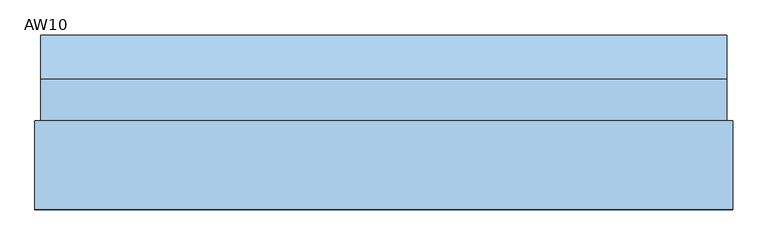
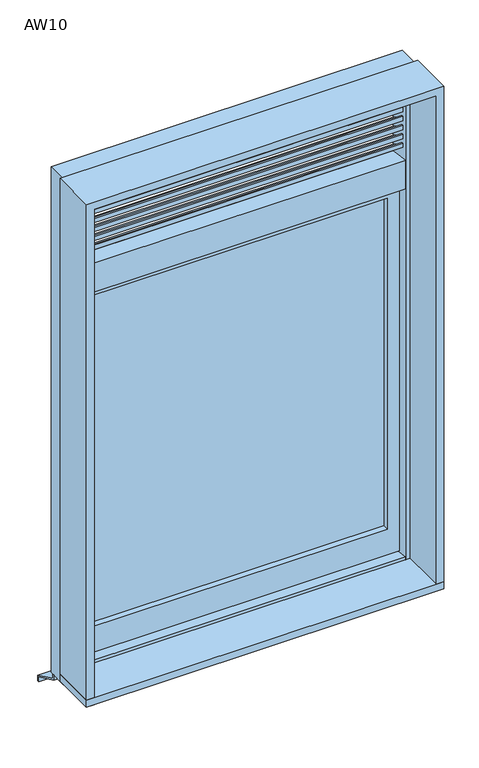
"""IFC4 building model written with IfcOpenShell, lengths in millimetres: window geometry, 営_段窓_縦辷出し/ガラリ : AW10."""

from ifc_helpers import new_model, si_unit, frame, origin, place, context, project, spatial, polyline, outline, extrude, source, transform, mapped, element, save


def aw10_97079301(model_context):
    return source(origin(), model_context, "Body", "SweptSolid", [
        extrude(outline(polyline([(20.0, 2721.9993654), (20.0, 2703.75), (15.0, 2703.75), (15.0, 2718.75), (-30.0, 2738.75), (-30.0, 2753.75), (-25.0, 2753.75), (-25.0, 2741.9993654), (20.0, 2721.9993654)])), frame((-550.0, 0.0, 0.0), z_axis=(1.0, 0.0, 0.0), x_axis=(0.0, 1.0, 0.0)), (0.0, 0.0, 1.0), 1100.0),
        extrude(outline(polyline([(20.0, 2690.7493654), (20.0, 2672.5), (15.0, 2672.5), (15.0, 2687.5), (-30.0, 2707.5), (-30.0, 2722.5), (-25.0, 2722.5), (-25.0, 2710.7493654), (20.0, 2690.7493654)])), frame((-550.0, 0.0, 0.0), z_axis=(1.0, 0.0, 0.0), x_axis=(0.0, 1.0, 0.0)), (0.0, 0.0, 1.0), 1100.0),
        extrude(outline(polyline([(20.0, 2659.4993654), (20.0, 2641.25), (15.0, 2641.25), (15.0, 2656.25), (-30.0, 2676.25), (-30.0, 2691.25), (-25.0, 2691.25), (-25.0, 2679.4993654), (20.0, 2659.4993654)])), frame((-550.0, 0.0, 0.0), z_axis=(1.0, 0.0, 0.0), x_axis=(0.0, 1.0, 0.0)), (0.0, 0.0, 1.0), 1100.0),
        extrude(outline(polyline([(20.0, 2628.2493654), (20.0, 2610.0), (15.0, 2610.0), (15.0, 2625.0), (-30.0, 2645.0), (-30.0, 2660.0), (-25.0, 2660.0), (-25.0, 2648.2493654), (20.0, 2628.2493654)])), frame((-550.0, 0.0, 0.0), z_axis=(1.0, 0.0, 0.0), x_axis=(0.0, 1.0, 0.0)), (0.0, 0.0, 1.0), 1100.0),
        extrude(outline(polyline([(20.0, 2596.9993654), (20.0, 2578.75), (15.0, 2578.75), (15.0, 2593.75), (-30.0, 2613.75), (-30.0, 2628.75), (-25.0, 2628.75), (-25.0, 2616.9993654), (20.0, 2596.9993654)])), frame((-550.0, 0.0, 0.0), z_axis=(1.0, 0.0, 0.0), x_axis=(0.0, 1.0, 0.0)), (0.0, 0.0, 1.0), 1100.0),
        extrude(outline(polyline([(20.0, 2565.7493654), (20.0, 2547.5), (15.0, 2547.5), (15.0, 2562.5), (-30.0, 2582.5), (-30.0, 2597.5), (-25.0, 2597.5), (-25.0, 2585.7493654), (20.0, 2565.7493654)])), frame((-550.0, 0.0, 0.0), z_axis=(1.0, 0.0, 0.0), x_axis=(0.0, 1.0, 0.0)), (0.0, 0.0, 1.0), 1100.0),
        extrude(outline(polyline([(20.0, 2534.4993654), (20.0, 2516.25), (15.0, 2516.25), (15.0, 2531.25), (-30.0, 2551.25), (-30.0, 2566.25), (-25.0, 2566.25), (-25.0, 2554.4993654), (20.0, 2534.4993654)])), frame((-550.0, 0.0, 0.0), z_axis=(1.0, 0.0, 0.0), x_axis=(0.0, 1.0, 0.0)), (0.0, 0.0, 1.0), 1100.0),
        extrude(outline(polyline([(20.0, 2753.2493654), (20.0, 2735.0), (15.0, 2735.0), (15.0, 2750.0), (-30.0, 2770.0), (-30.0, 2785.0), (-25.0, 2785.0), (-25.0, 2773.2493654), (20.0, 2753.2493654)])), frame((-550.0, 0.0, 0.0), z_axis=(1.0, 0.0, 0.0), x_axis=(0.0, 1.0, 0.0)), (0.0, 0.0, 1.0), 1100.0),
        extrude(outline(polyline([(20.0, 2503.2493654), (20.0, 2485.0), (15.0, 2485.0), (15.0, 2500.0), (-30.0, 2520.0), (-30.0, 2535.0), (-25.0, 2535.0), (-25.0, 2523.2493654), (20.0, 2503.2493654)])), frame((-550.0, 0.0, 0.0), z_axis=(1.0, 0.0, 0.0), x_axis=(0.0, 1.0, 0.0)), (0.0, 0.0, 1.0), 1100.0),
        extrude(outline(polyline([(510.0, 10.0), (-510.0, 10.0), (-510.0, 15.0), (510.0, 15.0), (510.0, 10.0)])), frame((0.0, 0.0, 1190.0), z_axis=(0.0, 0.0, 1.0), x_axis=(1.0, 0.0, 0.0)), (0.0, 0.0, 1.0), 1155.0),
        extrude(outline(polyline([(2385.0, 550.0), (2385.0, -550.0), (1100.0, -550.0), (1100.0, 550.0), (2385.0, 550.0)]), holes=[polyline([(2345.0, 510.0), (1190.0, 510.0), (1190.0, -510.0), (2345.0, -510.0), (2345.0, 510.0)])]), frame((0.0, -10.0, 0.0), z_axis=(0.0, 1.0, 0.0), x_axis=(0.0, 0.0, 1.0)), (0.0, 0.0, 1.0), 30.0),
        extrude(outline(polyline([(590.0, -195.0), (-590.0, -195.0), (-590.0, -45.0), (590.0, -45.0), (590.0, -195.0)])), frame((0.0, 0.0, 1065.0), z_axis=(0.0, 0.0, 1.0), x_axis=(1.0, 0.0, 0.0)), (0.0, 0.0, 1.0), 25.0),
        extrude(outline(polyline([(15.0, 1035.0), (100.0, 995.0), (100.0, 975.0), (95.0014518, 975.0), (95.0014518, 991.8262891), (10.0, 1031.8269723), (10.0, 1050.0), (15.0, 1050.0), (15.0, 1035.0)])), frame((-580.0, 0.0, 0.0), z_axis=(1.0, 0.0, 0.0), x_axis=(0.0, 1.0, 0.0)), (0.0, 0.0, 1.0), 1160.0),
        extrude(outline(polyline([(1065.0, -590.0), (1065.0, -565.0), (2795.0, -565.0), (2795.0, 565.0), (1065.0, 565.0), (1065.0, 590.0), (2820.0, 590.0), (2820.0, -590.0), (1065.0, -590.0)])), frame((0.0, -195.0, 0.0), z_axis=(0.0, 1.0, 0.0), x_axis=(0.0, 0.0, 1.0)), (0.0, 0.0, 1.0), 150.0),
        extrude(outline(polyline([(1050.0, -580.0), (1050.0, -550.0), (2785.0, -550.0), (2785.0, 550.0), (1050.0, 550.0), (1050.0, 580.0), (2815.0, 580.0), (2815.0, -580.0), (1050.0, -580.0)])), frame((0.0, -45.0, 0.0), z_axis=(0.0, 1.0, 0.0), x_axis=(0.0, 0.0, 1.0)), (0.0, 0.0, 1.0), 70.0),
        extrude(outline(polyline([(-45.0, 1050.0), (-45.0, 1100.0), (25.0, 1090.6666667), (25.0, 1050.0), (-45.0, 1050.0)])), frame((-550.0, 0.0, 0.0), z_axis=(1.0, 0.0, 0.0), x_axis=(0.0, 1.0, 0.0)), (0.0, 0.0, 1.0), 1100.0),
        extrude(outline(polyline([(25.0, 2385.0), (-45.0, 2385.0), (-45.0, 2485.0), (25.0, 2475.0), (25.0, 2385.0)])), frame((-550.0, 0.0, 0.0), z_axis=(1.0, 0.0, 0.0), x_axis=(0.0, 1.0, 0.0)), (0.0, 0.0, 1.0), 1100.0),
    ])


if __name__ == "__main__":
    model = new_model("IFC4")
    model_context = context("Model", 3, world=origin())
    ifc_project = project(units=[si_unit("LENGTHUNIT", "METRE", prefix="MILLI")], contexts=[model_context])
    site = spatial("IfcSite", under=ifc_project)
    building = spatial("IfcBuilding", under=site)
    placement = place(None, origin())
    aw10_shape = aw10_97079301(model_context)
    element("IfcWindow", 1, ObjectType="営_段窓_縦辷出し/ガラリ : AW10", at=placement, inside=building, context=model_context, shape_type="MappedRepresentation", body=[
        mapped(aw10_shape, transform((0.0, 0.0, 0.0), x_axis=(1.0, 0.0, 0.0), y_axis=(0.0, 1.0, 0.0), z_axis=(0.0, 0.0, 1.0))),
    ])
    save(model, "model.ifc")
